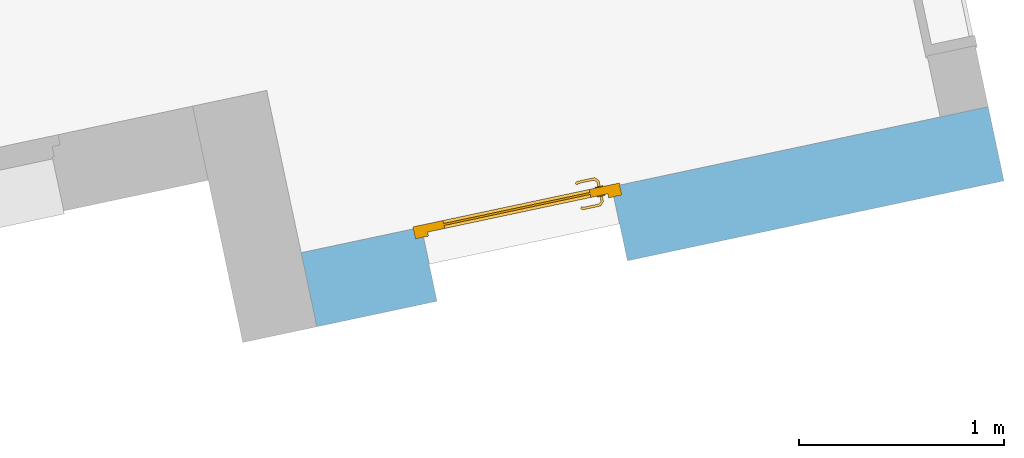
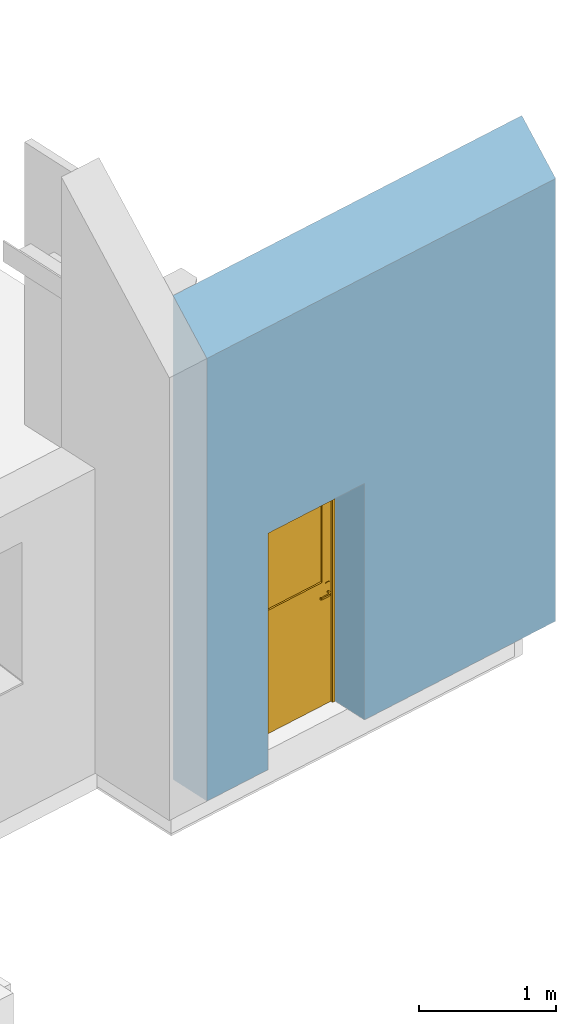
# One storey, part 9 of 11: 1 door, 1 opening, plus 1 element that does not belong to this part.
"""IFC2X3 building model written with IfcOpenShell, lengths in centimetres."""

import ifcopenshell
import ifcopenshell.guid

model = None  # the IFC model being written
_history = None  # IfcOwnerHistory: only IFC2X3 demands one
_inside = {}  # id of a spatial element -> (the spatial element, [elements in it])
_under = {}  # id of a project, library or spatial element -> (it, [spatial elements below it])
_declared = {}  # id of a project -> (the project, [libraries it declares])
_typed = {}  # id of a type object -> (the type object, [elements of that type])
_made_of = {}  # id of a material, layer set ... -> (it, [elements and type objects made of it])


def new_model(schema):
    """Start an empty IFC model of exactly this schema.

    Asked for "IFC4X3", IfcOpenShell would pick the latest addendum, in which some entities
    have other attributes; the version numbers below select the first issue.
    IFC2X3 requires an IfcOwnerHistory on every rooted entity: one is made here for all.
    """
    global model, _history
    if schema == "IFC4X3":
        model = ifcopenshell.file(schema_version=(4, 3, 0, 0))
    else:
        model = ifcopenshell.file(schema=schema)
    _inside.clear()
    _under.clear()
    _declared.clear()
    _typed.clear()
    _made_of.clear()
    _history = None
    if model.schema == "IFC2X3":
        org = make("IfcOrganization", Name="unknown")
        user = make(
            "IfcPersonAndOrganization",
            ThePerson=make("IfcPerson", FamilyName="unknown"),
            TheOrganization=org,
        )
        app = make(
            "IfcApplication",
            ApplicationDeveloper=org,
            Version="unknown",
            ApplicationFullName="unknown",
            ApplicationIdentifier="unknown",
        )
        _history = make(
            "IfcOwnerHistory",
            OwningUser=user,
            OwningApplication=app,
            ChangeAction="ADDED",
            CreationDate=0,
        )
    return model


def make(cls, **values):
    """One entity of the class cls with the attributes given. An attribute that is None is left unset."""
    return model.create_entity(
        cls, **{name: value for name, value in values.items() if value is not None}
    )


def entity(cls, *values):
    """Any entity or typed value of the class cls, its attributes in the order of the schema. None: left unset."""
    e = model.create_entity(cls)
    for i, value in enumerate(values):
        if value is not None:
            e[i] = value
    return e


def rooted(cls, **values):
    """An entity with a GlobalId (a new one), such as an element, a storey or a relation."""
    return make(cls, GlobalId=ifcopenshell.guid.new(), OwnerHistory=_history, **values)


def si_unit(unit_type, name, prefix=None):
    """IfcSIUnit, for example si_unit("LENGTHUNIT", "METRE", prefix="MILLI")."""
    return make("IfcSIUnit", UnitType=unit_type, Prefix=prefix, Name=name)


def converted_unit(unit_type, name, factor, base, dimensions=None, offset=None):
    """IfcConversionBasedUnit, such as the inch: factor (a typed value) times the base unit."""
    return make(
        "IfcConversionBasedUnit"
        if offset is None
        else "IfcConversionBasedUnitWithOffset",
        ConversionOffset=offset,
        Dimensions=None
        if dimensions is None
        else entity("IfcDimensionalExponents", *dimensions),
        UnitType=unit_type,
        Name=name,
        ConversionFactor=make(
            "IfcMeasureWithUnit", ValueComponent=factor, UnitComponent=base
        ),
    )


def derived_unit(unit_type, elements):
    """IfcDerivedUnit: a product of units, each with its exponent."""
    return make(
        "IfcDerivedUnit",
        Elements=[
            make("IfcDerivedUnitElement", Unit=unit, Exponent=power)
            for unit, power in elements
        ],
        UnitType=unit_type,
    )


def assignment(units):
    """IfcUnitAssignment: the units of a project."""
    return None if units is None else make("IfcUnitAssignment", Units=units)


def point(xyz):
    """IfcCartesianPoint."""
    return None if xyz is None else make("IfcCartesianPoint", Coordinates=xyz)


def direction(xyz):
    """IfcDirection."""
    return None if xyz is None else make("IfcDirection", DirectionRatios=xyz)


def frame(location, z_axis=None, x_axis=None):
    """IfcAxis2Placement3D, a coordinate frame: its origin and axes. An axis left out is left unset."""
    return make(
        "IfcAxis2Placement3D",
        Location=point(location),
        Axis=direction(z_axis),
        RefDirection=direction(x_axis),
    )


def frame_2d(location, x_axis=None):
    """IfcAxis2Placement2D, a coordinate frame in the plane: its origin and x axis."""
    return make(
        "IfcAxis2Placement2D", Location=point(location), RefDirection=direction(x_axis)
    )


def origin():
    """The frame at (0, 0, 0) with its axes left unset."""
    return frame((0.0, 0.0, 0.0))


def place(relative_to, where):
    """IfcLocalPlacement: puts the frame where relative to a parent placement (None: the world)."""
    return make(
        "IfcLocalPlacement", PlacementRelTo=relative_to, RelativePlacement=where
    )


def context(
    kind, dimensions, precision=None, world=None, true_north=None, identifier=None
):
    """IfcGeometricRepresentationContext, for example the 3D "Model" context."""
    return make(
        "IfcGeometricRepresentationContext",
        ContextIdentifier=identifier,
        ContextType=kind,
        CoordinateSpaceDimension=dimensions,
        Precision=precision,
        WorldCoordinateSystem=world,
        TrueNorth=true_north,
    )


def subcontext(parent, identifier, kind, view, scale=None):
    """IfcGeometricRepresentationSubContext, for example "Body" below "Model"."""
    return make(
        "IfcGeometricRepresentationSubContext",
        ContextIdentifier=identifier,
        ContextType=kind,
        ParentContext=parent,
        TargetScale=scale,
        TargetView=view,
    )


def project(units=None, contexts=None):
    """IfcProject with its units and contexts."""
    return rooted(
        "IfcProject",
        Name="project",
        RepresentationContexts=contexts,
        UnitsInContext=assignment(units),
    )


def spatial(cls, under=None, at=None, **own):
    """A site, building, storey or space (cls), placed at a placement, below another one or the project."""
    s = rooted(cls, ObjectPlacement=at, **own)
    if under is not None:
        _under.setdefault(under.id(), (under, []))[1].append(s)
    return s


def polyline(points):
    """IfcPolyline through the points."""
    return make("IfcPolyline", Points=[point(p) for p in points])


def profile(cls, at=None, kind="AREA", **sizes):
    """A parametric profile (cls). Its sizes go by their IFC names, for example OverallWidth=200.0."""
    return make(cls, ProfileType=kind, Position=at, **sizes)


def rectangle(**sizes):
    """IfcRectangleProfileDef."""
    return profile("IfcRectangleProfileDef", **sizes)


def extrude(swept, where, along, depth):
    """IfcExtrudedAreaSolid: the profile swept, set in the frame where, extruded along a direction by depth."""
    return make(
        "IfcExtrudedAreaSolid",
        SweptArea=swept,
        Position=where,
        ExtrudedDirection=direction(along),
        Depth=depth,
    )


def clip(a, b, op="DIFFERENCE"):
    """IfcBooleanClippingResult: the solid a cut by the half space b."""
    return make(
        "IfcBooleanClippingResult", Operator=op, FirstOperand=a, SecondOperand=b
    )


def bounded_halfspace(plane, agree, where, boundary):
    """IfcPolygonalBoundedHalfSpace: a half space limited to a polygon's prism."""
    return make(
        "IfcPolygonalBoundedHalfSpace",
        BaseSurface=make("IfcPlane", Position=plane),
        AgreementFlag=agree,
        Position=where,
        PolygonalBoundary=boundary,
    )


def faces_of(points, faces, orient=None, outer=None):
    """IfcFace entities. A face is a list of loops; a loop is a list of indices into points, from 0.

    orient and outer hold one flag for each loop. By default every Orientation is true, the
    first loop of a face is its IfcFaceOuterBound and the others are IfcFaceBound.
    """
    made = []
    for i, loops in enumerate(faces):
        bounds = []
        for j, loop in enumerate(loops):
            is_outer = j == 0 if outer is None else outer[i][j]
            bounds.append(
                make(
                    "IfcFaceOuterBound" if is_outer else "IfcFaceBound",
                    Bound=make("IfcPolyLoop", Polygon=[points[k] for k in loop]),
                    Orientation=True if orient is None else orient[i][j],
                )
            )
        made.append(make("IfcFace", Bounds=bounds))
    return made


def faceted_brep(points, faces, orient=None, outer=None, voids=None):
    """IfcFacetedBrep: a solid bounded by flat faces; with voids (closed shells), ...WithVoids."""
    shared = [point(p) for p in points]
    hull = make("IfcClosedShell", CfsFaces=faces_of(shared, faces, orient, outer))
    if voids is None:
        return make("IfcFacetedBrep", Outer=hull)
    return make(
        "IfcFacetedBrepWithVoids",
        Outer=hull,
        Voids=[
            make(cls, CfsFaces=faces_of(shared, fs, o, b)) for cls, fs, o, b in voids
        ],
    )


def shape(context_of_items, identifier, shape_type, items):
    """IfcShapeRepresentation: the items that make up one representation, for example the "Body"."""
    return make(
        "IfcShapeRepresentation",
        ContextOfItems=context_of_items,
        RepresentationIdentifier=identifier,
        RepresentationType=shape_type,
        Items=items,
    )


def source(mapping_origin, context_of_items, identifier, shape_type, items):
    """IfcRepresentationMap: a shape defined once, which mapped items show again and again."""
    return make(
        "IfcRepresentationMap",
        MappingOrigin=mapping_origin,
        MappedRepresentation=shape(context_of_items, identifier, shape_type, items),
    )


def transform(
    local_origin,
    x_axis=None,
    y_axis=None,
    z_axis=None,
    scale=None,
    scale2=None,
    scale3=None,
    uniform=True,
):
    """IfcCartesianTransformationOperator3D, or its non-uniform kind. x_axis, y_axis, z_axis: its Axis1, 2, 3."""
    if uniform:
        return make(
            "IfcCartesianTransformationOperator3D",
            Axis1=direction(x_axis),
            Axis2=direction(y_axis),
            LocalOrigin=point(local_origin),
            Scale=scale,
            Axis3=direction(z_axis),
        )
    return make(
        "IfcCartesianTransformationOperator3DnonUniform",
        Axis1=direction(x_axis),
        Axis2=direction(y_axis),
        LocalOrigin=point(local_origin),
        Scale=scale,
        Axis3=direction(z_axis),
        Scale2=scale2,
        Scale3=scale3,
    )


def mapped(mapping_source, mapping_target):
    """IfcMappedItem: shows the shape of a source again, moved by a transform."""
    return make(
        "IfcMappedItem", MappingSource=mapping_source, MappingTarget=mapping_target
    )


def material(Name=None, Category=None):
    """IfcMaterial."""
    return make("IfcMaterial", Name=Name, Category=Category)


def material_list(materials):
    """IfcMaterialList."""
    return make("IfcMaterialList", Materials=materials)


def layer(
    of_material, thickness, ventilated=None, Name=None, Category=None, Priority=None
):
    """IfcMaterialLayer: one layer of a wall or slab, of a material (None: an air gap)."""
    return make(
        "IfcMaterialLayer",
        Material=of_material,
        LayerThickness=thickness,
        IsVentilated=ventilated,
        Name=Name,
        Category=Category,
        Priority=Priority,
    )


def layer_set(layers, Name=None):
    """IfcMaterialLayerSet."""
    return make("IfcMaterialLayerSet", MaterialLayers=layers, LayerSetName=Name)


def layer_usage(for_layer_set, set_direction, sense, offset, extent=None):
    """IfcMaterialLayerSetUsage: how a layer set lies in its element."""
    return make(
        "IfcMaterialLayerSetUsage",
        ForLayerSet=for_layer_set,
        LayerSetDirection=set_direction,
        DirectionSense=sense,
        OffsetFromReferenceLine=offset,
        ReferenceExtent=extent,
    )


def made_of(thing, what):
    """Note that an element or type object is made of a material, layer set ...; save() writes the relation."""
    if what is not None:
        _made_of.setdefault(what.id(), (what, []))[1].append(thing)
    return thing


def type_object(cls, material=None, **own):
    """A type object (cls), such as IfcWallType, which elements share."""
    return made_of(rooted(cls, **own), material)


def type_shapes(of_type, sources):
    """Give a type object the sources (RepresentationMaps) that its elements show as mapped items."""
    of_type.RepresentationMaps = sources


def element(
    cls,
    number,
    at=None,
    inside=None,
    cuts=None,
    type_object=None,
    material=None,
    context=None,
    identifier="Body",
    shape_type=None,
    held_by="IfcProductDefinitionShape",
    body=None,
    shapes=None,
    **own,
):
    """One element of the class cls, such as IfcWall. Its Tag is "e" and its number.

    at: its placement. inside: the storey or other place that contains it. cuts: it is an
    opening in that element (IfcRelVoidsElement). A single representation is given by context,
    identifier, shape_type and body (its items); several are given by shapes. held_by: the class
    of the entity that holds the representations. save() writes the other relations.
    """
    e = rooted(cls, Tag="e%d" % number, ObjectPlacement=at, **own)
    if body is not None:
        shapes = [shape(context, identifier, shape_type, body)]
    if shapes is not None:
        e.Representation = make(held_by, Representations=shapes)
    if inside is not None:
        _inside.setdefault(inside.id(), (inside, []))[1].append(e)
    if cuts is not None:
        rooted(
            "IfcRelVoidsElement", RelatingBuildingElement=cuts, RelatedOpeningElement=e
        )
    if type_object is not None:
        _typed.setdefault(type_object.id(), (type_object, []))[1].append(e)
    return made_of(e, material)


def fill(opening, filler):
    """IfcRelFillsElement: the door or window that sits in an opening."""
    return rooted(
        "IfcRelFillsElement",
        RelatingOpeningElement=opening,
        RelatedBuildingElement=filler,
    )


def aggregate(whole, parts):
    """IfcRelAggregates: a whole, such as a stair, and the parts it consists of."""
    return rooted("IfcRelAggregates", RelatingObject=whole, RelatedObjects=parts)


def save(model, path):
    """Write the relations noted so far, then the file.

    IfcRelAggregates (storeys below a building ...), IfcRelContainedInSpatialStructure (elements
    in a storey), IfcRelDefinesByType, IfcRelAssociatesMaterial and IfcRelDeclares: one each for
    every whole, place, type object, material and project.
    """
    for whole, parts in _under.values():
        aggregate(whole, parts)
    for where, things in _inside.values():
        rooted(
            "IfcRelContainedInSpatialStructure",
            RelatedElements=things,
            RelatingStructure=where,
        )
    for kind, things in _typed.values():
        rooted("IfcRelDefinesByType", RelatedObjects=things, RelatingType=kind)
    for what, things in _made_of.values():
        rooted("IfcRelAssociatesMaterial", RelatedObjects=things, RelatingMaterial=what)
    for by, libraries in _declared.values():
        rooted("IfcRelDeclares", RelatingContext=by, RelatedDefinitions=libraries)
    model.write(path)


model = new_model("IFC2X3")

# Units and contexts
model_context = context("Model", 3, precision=0.001, world=origin(), true_north=direction((6.12303176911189e-17, 1.0)))
body_context = subcontext(model_context, "Body", "Model", "MODEL_VIEW")
ifc_project = project(units=[si_unit("LENGTHUNIT", "METRE", prefix="CENTI"), si_unit("AREAUNIT", "SQUARE_METRE"), si_unit("VOLUMEUNIT", "CUBIC_METRE"), converted_unit("PLANEANGLEUNIT", "DEGREE", entity("IfcRatioMeasure", 0.0174532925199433), si_unit("PLANEANGLEUNIT", "RADIAN"), dimensions=[0, 0, 0, 0, 0, 0, 0]), si_unit("MASSUNIT", "GRAM", prefix="KILO"), derived_unit("MASSDENSITYUNIT", [(si_unit("MASSUNIT", "GRAM", prefix="KILO"), 1), (si_unit("LENGTHUNIT", "METRE"), -3)]), derived_unit("IONCONCENTRATIONUNIT", [(si_unit("MASSUNIT", "GRAM", prefix="KILO"), 1), (si_unit("LENGTHUNIT", "METRE"), -3)]), derived_unit("MOMENTOFINERTIAUNIT", [(si_unit("LENGTHUNIT", "METRE"), 4)]), si_unit("TIMEUNIT", "SECOND"), si_unit("FREQUENCYUNIT", "HERTZ"), si_unit("THERMODYNAMICTEMPERATUREUNIT", "DEGREE_CELSIUS"), derived_unit("THERMALTRANSMITTANCEUNIT", [(si_unit("MASSUNIT", "GRAM", prefix="KILO"), 1), (si_unit("THERMODYNAMICTEMPERATUREUNIT", "KELVIN"), -1), (si_unit("TIMEUNIT", "SECOND"), -3)]), derived_unit("THERMALCONDUCTANCEUNIT", [(si_unit("MASSUNIT", "GRAM", prefix="KILO"), 1), (si_unit("THERMODYNAMICTEMPERATUREUNIT", "KELVIN"), -1), (si_unit("TIMEUNIT", "SECOND"), -3), (si_unit("LENGTHUNIT", "METRE"), 1)]), derived_unit("VOLUMETRICFLOWRATEUNIT", [(si_unit("LENGTHUNIT", "METRE"), 3), (si_unit("TIMEUNIT", "SECOND"), -1)]), derived_unit("MASSFLOWRATEUNIT", [(si_unit("MASSUNIT", "GRAM", prefix="KILO"), 1), (si_unit("TIMEUNIT", "SECOND"), -1)]), derived_unit("ROTATIONALFREQUENCYUNIT", [(si_unit("TIMEUNIT", "SECOND"), -1)]), si_unit("ELECTRICCURRENTUNIT", "AMPERE"), si_unit("ELECTRICVOLTAGEUNIT", "VOLT"), si_unit("POWERUNIT", "WATT"), si_unit("FORCEUNIT", "NEWTON", prefix="KILO"), si_unit("ILLUMINANCEUNIT", "LUX"), si_unit("LUMINOUSFLUXUNIT", "LUMEN"), si_unit("LUMINOUSINTENSITYUNIT", "CANDELA"), derived_unit("USERDEFINED", [(si_unit("MASSUNIT", "GRAM", prefix="KILO"), -1), (si_unit("LENGTHUNIT", "METRE"), -2), (si_unit("TIMEUNIT", "SECOND"), 3), (si_unit("LUMINOUSFLUXUNIT", "LUMEN"), 1)]), derived_unit("USERDEFINED", [(si_unit("MASSUNIT", "GRAM", prefix="KILO"), 1), (si_unit("TIMEUNIT", "SECOND"), -3), (si_unit("LENGTHUNIT", "METRE"), 3), (si_unit("ELECTRICCURRENTUNIT", "AMPERE"), -2)]), derived_unit("SOUNDPOWERUNIT", [(si_unit("MASSUNIT", "GRAM", prefix="KILO"), 1), (si_unit("TIMEUNIT", "SECOND"), -3), (si_unit("LENGTHUNIT", "METRE"), 2)]), derived_unit("SOUNDPRESSUREUNIT", [(si_unit("MASSUNIT", "GRAM", prefix="KILO"), 1), (si_unit("LENGTHUNIT", "METRE"), -1), (si_unit("TIMEUNIT", "SECOND"), -2)]), derived_unit("LINEARVELOCITYUNIT", [(si_unit("LENGTHUNIT", "METRE"), 1), (si_unit("TIMEUNIT", "SECOND"), -1)]), si_unit("PRESSUREUNIT", "PASCAL"), derived_unit("USERDEFINED", [(si_unit("MASSUNIT", "GRAM", prefix="KILO"), 1), (si_unit("LENGTHUNIT", "METRE"), -2), (si_unit("TIMEUNIT", "SECOND"), -2)]), derived_unit("LINEARFORCEUNIT", [(si_unit("MASSUNIT", "GRAM", prefix="KILO"), 1), (si_unit("TIMEUNIT", "SECOND"), -2)]), derived_unit("PLANARFORCEUNIT", [(si_unit("MASSUNIT", "GRAM", prefix="KILO"), 1), (si_unit("LENGTHUNIT", "METRE"), -1), (si_unit("TIMEUNIT", "SECOND"), -2)]), derived_unit("SPECIFICHEATCAPACITYUNIT", [(si_unit("THERMODYNAMICTEMPERATUREUNIT", "KELVIN"), -1), (si_unit("LENGTHUNIT", "METRE"), 2), (si_unit("TIMEUNIT", "SECOND"), -2)]), derived_unit("HEATINGVALUEUNIT", [(si_unit("LENGTHUNIT", "METRE"), 2), (si_unit("TIMEUNIT", "SECOND"), -2)]), derived_unit("VAPORPERMEABILITYUNIT", [(si_unit("LENGTHUNIT", "METRE"), -1), (si_unit("TIMEUNIT", "SECOND"), 1)]), derived_unit("DYNAMICVISCOSITYUNIT", [(si_unit("MASSUNIT", "GRAM", prefix="KILO"), 1), (si_unit("TIMEUNIT", "SECOND"), -1), (si_unit("LENGTHUNIT", "METRE"), -1)]), derived_unit("THERMALEXPANSIONCOEFFICIENTUNIT", [(si_unit("THERMODYNAMICTEMPERATUREUNIT", "KELVIN"), -1)]), derived_unit("MODULUSOFELASTICITYUNIT", [(si_unit("MASSUNIT", "GRAM", prefix="KILO"), 1), (si_unit("LENGTHUNIT", "METRE"), -1), (si_unit("TIMEUNIT", "SECOND"), -2)]), derived_unit("ISOTHERMALMOISTURECAPACITYUNIT", [(si_unit("LENGTHUNIT", "METRE"), 3), (si_unit("MASSUNIT", "GRAM", prefix="KILO"), -1)]), derived_unit("MOISTUREDIFFUSIVITYUNIT", [(si_unit("TIMEUNIT", "SECOND"), -1), (si_unit("LENGTHUNIT", "METRE"), 2)])], contexts=[model_context])

# Site, building, storey
site_placement = place(None, frame((14083.8920177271, -6853.25409548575, 6900.0), z_axis=(0.0, 0.0, 1.0), x_axis=(0.978188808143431, 0.207717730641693, 0.0)))
site = spatial("IfcSite", under=ifc_project, at=site_placement, Name="Surface", CompositionType="ELEMENT")
building_placement = place(site_placement, origin())
building = spatial("IfcBuilding", under=site, at=building_placement, CompositionType="ELEMENT")
storey_placement = place(building_placement, frame((0.0, 0.0, 17.0)))
storey = spatial("IfcBuildingStorey", under=building, at=storey_placement, Name="Rez de chaussée", CompositionType="ELEMENT", Elevation=17.0000000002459)

# Wall, opening, door
ifc_material_1 = material(Name="__ PIERRE______________________TEST")
ifc_layer_1 = layer(ifc_material_1, 2.0)
ifc_material_2 = material(Name="__ BETON_parpaings")
ifc_layer_2 = layer(ifc_material_2, 20.0)
ifc_material_3 = material(Name="__ ISOLANT (pat 1)")
ifc_layer_3 = layer(ifc_material_3, 13.0)
ifc_material_4 = material(Name="__ ENDUIT_Blanc")
ifc_layer_4 = layer(ifc_material_4, 2.0)
ifc_layer_set = layer_set([ifc_layer_1, ifc_layer_2, ifc_layer_3, ifc_layer_4], Name="Mur de base:*BRIQUE 37 (20 +INT 13+2 + EXT 2) (Iso+BA13)(parement)")
ifc_layer_usage = layer_usage(ifc_layer_set, "AXIS2", "POSITIVE", -18.5)
wall_type = type_object("IfcWallType", Name="Mur de base:*BRIQUE 37 (20 +INT 13+2 + EXT 2) (Iso+BA13)(parement)", PredefinedType="STANDARD", material=ifc_layer_set)
wall_placement = place(storey_placement, frame((-7126.9551432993, 14783.1724778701, 0.0)))
wall = element("IfcWallStandardCase", 1, at=wall_placement, inside=storey, type_object=wall_type, material=ifc_layer_usage, Name="Mur de base:*BRIQUE 37 (20 +INT 13+2 + EXT 2) (Iso+BA13)(parement)", ObjectType="Mur de base:*BRIQUE 37 (20 +INT 13+2 + EXT 2) (Iso+BA13)(parement)", context=body_context, shape_type="Clipping", body=[
    clip(extrude(rectangle(XDim=342.999999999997, YDim=37.0000000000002, at=frame_2d((171.499999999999, -1.14397380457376e-12), x_axis=(1.0, 0.0))), origin(), (0.0, 0.0, 1.0), 431.999999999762), bounded_halfspace(frame((0.0, -18.500000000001, 395.0), z_axis=(0.0, -0.707106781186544, 0.707106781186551), x_axis=(1.0, 0.0, 0.0)), False, frame((0.0, -18.500000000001, 395.0)), polyline([(0.0, 0.0), (343.0, 0.0), (343.0, 37.0), (0.0, 37.0), (0.0, 0.0)]))),
])
opening_placement = place(wall_placement, frame((56.0, -48.5000000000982, 0.0)))
opening = element("IfcOpeningElement", 2, at=opening_placement, cuts=wall, Name="Mur de base:*BRIQUE 37 (20 +INT 13+2 + EXT 2) (Iso+BA13)(parement)", ObjectType="Opening", context=body_context, shape_type="Brep", body=[
    faceted_brep([(4.0, 97.0, 211.0), (4.0, 67.0, 211.0), (99.0, 67.0, 211.0), (99.0, 97.0, 211.0), (4.0, 0.0, 0.0), (4.0, 62.0, 0.0), (0.0, 62.0, 0.0), (0.0, 67.0, 0.0), (4.0, 67.0, 0.0), (4.0, 97.0, 0.0), (99.0, 97.0, 0.0), (99.0, 67.0, 0.0), (103.0, 67.0, 0.0), (103.0, 62.0, 0.0), (99.0, 62.0, 0.0), (99.0, 0.0, 0.0), (4.0, 0.0, 211.0), (99.0, 0.0, 211.0), (4.0, 62.0, 211.0), (0.0, 67.0, 215.0), (103.0, 67.0, 215.0), (103.0, 62.0, 215.0), (0.0, 62.0, 215.0), (99.0, 62.0, 211.0)], [[[0, 1, 2, 3]], [[4, 5, 6, 7, 8, 9, 10, 11, 12, 13, 14, 15]], [[16, 4, 15, 17]], [[3, 2, 11, 10]], [[3, 10, 9, 0]], [[16, 18, 5, 4]], [[11, 2, 1, 8, 7, 19, 20, 12]], [[12, 20, 21, 13]], [[13, 21, 22, 6, 5, 18, 23, 14]], [[19, 22, 21, 20]], [[7, 6, 22, 19]], [[9, 8, 1, 0]], [[15, 14, 23, 17]], [[17, 23, 18, 16]]]),
])
ifc_material_5 = material(Name="PVC - Blanc")
ifc_material_6 = material(Name="Verre")
ifc_material_list = material_list([ifc_material_5, ifc_material_6])
door_style = type_object("IfcDoorStyle", Name="PVC Panneau Vitré - Traverse:P oculus 93x210", ConstructionType="NOTDEFINED", OperationType="SINGLE_SWING_RIGHT", ParameterTakesPrecedence=False, Sizeable=False, material=ifc_material_list)
shared_shape = source(origin(), body_context, "Body", "Brep", [
    faceted_brep([(9.79747013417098, 33.5, 100.778044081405), (9.39999999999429, 33.5, 100.699999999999), (9.39999999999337, 33.5, 99.2999999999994), (9.79747013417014, 33.5, 99.2219559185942), (10.2025298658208, 33.5, 99.221955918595), (10.5999999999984, 33.5, 99.300000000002), (10.5999999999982, 33.5, 100.699999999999), (10.2025298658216, 33.5, 100.778044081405), (10.5999999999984, 35.7485204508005, 99.300000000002), (10.5999999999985, 35.7485204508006, 100.699999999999), (10.2025298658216, 35.9131579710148, 100.778044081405), (11.5838906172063, 37.2945187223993, 100.778044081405), (11.4161093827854, 37.6995784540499, 100.778044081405), (9.79747013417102, 36.0809392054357, 100.778044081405), (20.5684749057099, 36.6467315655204, 100.778044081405), (20.8548953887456, 36.9331520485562, 100.778044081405), (20.0884689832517, 37.6995784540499, 100.778044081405), (19.9206877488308, 37.2945187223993, 100.778044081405), (9.3999999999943, 36.2455767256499, 100.699999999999), (9.39999999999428, 36.2455767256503, 99.2999999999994), (9.79747013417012, 36.080939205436, 99.2219559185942), (11.416109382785, 37.6995784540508, 99.2219559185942), (11.5838906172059, 37.2945187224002, 99.221955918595), (10.2025298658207, 35.9131579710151, 99.221955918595), (20.8548953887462, 36.9331520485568, 99.2219559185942), (20.5684749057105, 36.646731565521, 99.221955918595), (19.9206877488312, 37.2945187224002, 99.221955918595), (20.088468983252, 37.6995784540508, 99.2219559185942), (11.7485281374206, 36.8970485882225, 99.300000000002), (11.7485281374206, 36.8970485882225, 100.699999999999), (11.2514718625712, 38.0970485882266, 100.699999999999), (11.2514718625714, 38.0970485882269, 99.2999999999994), (15.7522879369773, 36.8970485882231, 99.3000000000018), (19.7560502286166, 36.8970485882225, 99.300000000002), (19.7560502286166, 36.8970485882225, 100.699999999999), (15.7522891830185, 36.8970485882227, 100.699999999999), (15.7522891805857, 37.5124927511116, 100.787811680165), (20.2531065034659, 38.0970485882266, 100.699999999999), (16.260057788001, 38.0970485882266, 100.699999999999), (20.2531065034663, 38.0970485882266, 99.2999999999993), (15.2445206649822, 38.0970485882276, 99.2999999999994), (15.7522892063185, 37.5124927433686, 99.2121883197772), (20.2874210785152, 36.3656777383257, 99.3000000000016), (21.1359492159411, 37.2142058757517, 99.2999999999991), (21.135949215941, 37.2142058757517, 100.699999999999), (20.2874210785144, 36.3656777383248, 100.699999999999)], [[[0, 1, 2, 3, 4, 5, 6, 7]], [[6, 5, 8, 9]], [[9, 10, 7, 6]], [[10, 11, 12, 13, 0, 7]], [[14, 15, 16, 17]], [[13, 18, 1, 0]], [[2, 1, 18, 19]], [[19, 20, 3, 2]], [[20, 21, 22, 23, 4, 3]], [[24, 25, 26, 27]], [[23, 8, 5, 4]], [[9, 8, 28, 29]], [[29, 11, 10, 9]], [[12, 30, 18, 13]], [[19, 18, 30, 31]], [[31, 21, 20, 19]], [[22, 28, 8, 23]], [[29, 28, 32, 33, 34, 35]], [[11, 35, 36]], [[16, 37, 38]], [[30, 12, 38]], [[38, 12, 36]], [[36, 35, 17]], [[17, 16, 36]], [[35, 11, 29]], [[34, 17, 35]], [[11, 36, 12]], [[38, 36, 16]], [[31, 30, 38, 37, 39, 40]], [[40, 41, 21]], [[41, 40, 27]], [[21, 31, 40]], [[39, 27, 40]], [[41, 32, 22]], [[22, 21, 41]], [[26, 32, 41]], [[28, 22, 32]], [[32, 26, 33]], [[26, 41, 27]], [[42, 25, 24, 43, 44, 15, 14, 45]], [[34, 33, 42, 45]], [[45, 14, 17, 34]], [[15, 44, 37, 16]], [[39, 37, 44, 43]], [[43, 24, 27, 39]], [[25, 42, 33, 26]]]),
    faceted_brep([(9.79747013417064, 28.5, 100.778044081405), (10.2025298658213, 28.5, 100.778044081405), (10.5999999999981, 28.5, 100.699999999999), (10.5999999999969, 28.5, 99.3000000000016), (10.2025298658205, 28.5, 99.221955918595), (9.79747013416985, 28.5, 99.2219559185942), (9.39999999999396, 28.5, 99.2999999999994), (9.39999999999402, 28.5, 100.699999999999), (9.399999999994, 25.7349049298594, 100.699999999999), (9.79747013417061, 25.8995424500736, 100.778044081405), (11.4023585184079, 24.2946540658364, 100.778044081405), (11.5701397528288, 24.699713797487, 100.778044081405), (10.2025298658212, 26.0673236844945, 100.778044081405), (20.8521810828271, 25.0610804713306, 100.778044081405), (20.5657605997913, 25.3475009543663, 100.778044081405), (19.9179734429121, 24.699713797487, 100.778044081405), (20.085754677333, 24.2946540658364, 100.778044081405), (10.5999999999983, 26.2319612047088, 100.699999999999), (10.5999999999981, 26.2319612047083, 99.3000000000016), (10.2025298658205, 26.0673236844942, 99.221955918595), (11.5701397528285, 24.6997137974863, 99.221955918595), (11.4023585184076, 24.2946540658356, 99.2219559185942), (9.79747013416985, 25.8995424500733, 99.2219559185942), (20.5657605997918, 25.3475009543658, 99.221955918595), (20.8521810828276, 25.0610804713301, 99.2219559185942), (20.0857546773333, 24.2946540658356, 99.2219559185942), (19.9179734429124, 24.6997137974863, 99.221955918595), (9.39999999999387, 25.7349049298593, 99.2999999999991), (11.2377209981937, 23.8971839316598, 100.699999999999), (11.7347772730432, 25.097183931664, 100.699999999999), (11.7347772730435, 25.0971839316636, 99.3000000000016), (11.2377209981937, 23.8971839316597, 99.2999999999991), (15.2307697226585, 23.8971839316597, 100.699999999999), (15.7440566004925, 24.4817197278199, 100.787811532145), (20.2503921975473, 23.8971839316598, 100.699999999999), (15.7440565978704, 25.0971839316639, 100.699999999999), (19.7533359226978, 25.0971839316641, 100.699999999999), (19.7533359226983, 25.0971839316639, 99.3000000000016), (15.7440563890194, 25.0971839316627, 99.3000000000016), (15.7440565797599, 24.4817197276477, 99.2121884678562), (20.2503921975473, 23.8971839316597, 99.2999999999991), (16.2573429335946, 23.8971839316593, 99.2999999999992), (20.2847067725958, 25.6285547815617, 100.699999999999), (21.1332349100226, 24.7800266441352, 100.699999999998), (21.1332349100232, 24.7800266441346, 99.2999999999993), (20.2847067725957, 25.6285547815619, 99.3000000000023)], [[[0, 1, 2, 3, 4, 5, 6, 7]], [[8, 9, 0, 7]], [[9, 10, 11, 12, 1, 0]], [[13, 14, 15, 16]], [[12, 17, 2, 1]], [[3, 2, 17, 18]], [[18, 19, 4, 3]], [[19, 20, 21, 22, 5, 4]], [[23, 24, 25, 26]], [[22, 27, 6, 5]], [[7, 6, 27, 8]], [[28, 10, 9, 8]], [[11, 29, 17, 12]], [[18, 17, 29, 30]], [[30, 20, 19, 18]], [[21, 31, 27, 22]], [[8, 27, 31, 28]], [[32, 33, 10]], [[33, 32, 16]], [[10, 28, 32]], [[34, 16, 32]], [[33, 35, 11]], [[11, 10, 33]], [[15, 35, 33]], [[29, 11, 35]], [[35, 15, 36]], [[15, 33, 16]], [[30, 29, 35, 36, 37, 38]], [[20, 38, 39]], [[25, 40, 41]], [[31, 21, 41]], [[41, 21, 39]], [[39, 38, 26]], [[26, 25, 39]], [[38, 20, 30]], [[37, 26, 38]], [[20, 39, 21]], [[41, 39, 25]], [[28, 31, 41, 40, 34, 32]], [[42, 14, 13, 43, 44, 24, 23, 45]], [[43, 13, 16, 34]], [[14, 42, 36, 15]], [[37, 36, 42, 45]], [[45, 23, 26, 37]], [[24, 44, 40, 25]], [[34, 40, 44, 43]]]),
    faceted_brep([(11.0352761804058, 33.0, 86.6003983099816), (12.0, 33.0, 87.0), (12.0, 33.0, 108.0), (11.0352761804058, 33.0, 108.399601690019), (10.0, 33.0, 108.535898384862), (8.96472381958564, 33.0, 108.399601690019), (8.0, 33.0, 108.0), (8.0, 33.0, 87.0), (8.96472381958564, 33.0, 86.6003983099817), (10.0, 33.0, 86.4641016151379), (11.0352761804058, 33.5, 108.399601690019), (12.0, 33.5, 108.0), (12.0, 33.5, 87.0), (11.0352761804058, 33.5, 86.6003983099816), (10.0, 33.5, 86.4641016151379), (8.96472381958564, 33.5, 86.6003983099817), (8.0, 33.5, 87.0), (8.0, 33.5, 108.0), (8.96472381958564, 33.5, 108.399601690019), (10.0, 33.5, 108.535898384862)], [[[0, 1, 2, 3, 4, 5, 6, 7, 8, 9]], [[10, 11, 12, 13, 14, 15, 16, 17, 18, 19]], [[11, 10, 3, 2]], [[3, 10, 19, 4]], [[19, 18, 5, 4]], [[18, 17, 6, 5]], [[7, 6, 17, 16]], [[16, 15, 8, 7]], [[8, 15, 14, 9]], [[14, 13, 0, 9]], [[13, 12, 1, 0]], [[2, 1, 12, 11]]]),
    faceted_brep([(11.0352761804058, 28.5, 86.6003983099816), (12.0, 28.5, 87.0), (12.0, 28.5, 108.0), (11.0352761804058, 28.5, 108.399601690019), (10.0, 28.5, 108.535898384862), (8.96472381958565, 28.5, 108.399601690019), (8.0, 28.5, 108.0), (8.0, 28.5, 87.0), (8.96472381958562, 28.5, 86.6003983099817), (10.0, 28.5, 86.4641016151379), (11.0352761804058, 29.0, 108.399601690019), (12.0, 29.0, 108.0), (12.0, 29.0, 87.0), (11.0352761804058, 29.0, 86.6003983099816), (10.0, 29.0, 86.4641016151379), (8.96472381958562, 29.0, 86.6003983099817), (8.0, 29.0, 87.0), (8.0, 29.0, 108.0), (8.96472381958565, 29.0, 108.399601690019), (10.0, 29.0, 108.535898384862)], [[[0, 1, 2, 3, 4, 5, 6, 7, 8, 9]], [[10, 11, 12, 13, 14, 15, 16, 17, 18, 19]], [[16, 15, 8, 7]], [[8, 15, 14, 9]], [[14, 13, 0, 9]], [[13, 12, 1, 0]], [[2, 1, 12, 11]], [[11, 10, 3, 2]], [[3, 10, 19, 4]], [[19, 18, 5, 4]], [[18, 17, 6, 5]], [[7, 6, 17, 16]]]),
    faceted_brep([(0.0, 29.0, 0.0), (0.0, 35.0, 0.0), (6.49999999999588, 35.0, 0.0), (6.49999999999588, 33.0, 0.0), (5.0, 33.0, 0.0), (5.0, 29.0, 0.0), (0.0, 29.0, 215.0), (0.0, 35.0, 215.0), (103.0, 35.0, 215.0), (103.0, 35.0, 0.0), (96.4999999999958, 35.0, 0.0), (96.4999999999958, 35.0, 208.500000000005), (6.49999999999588, 35.0, 208.500000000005), (6.49999999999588, 33.0, 208.500000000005), (96.4999999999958, 33.0, 208.500000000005), (96.4999999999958, 33.0, 0.0), (98.0, 33.0, 0.0), (98.0, 33.0, 210.0), (5.0, 33.0, 210.0), (5.0, 29.0, 210.0), (98.0, 29.0, 210.0), (98.0, 29.0, 0.0), (103.0, 29.0, 0.0), (103.0, 29.0, 215.0)], [[[0, 1, 2, 3, 4, 5]], [[1, 0, 6, 7]], [[2, 1, 7, 8, 9, 10, 11, 12]], [[3, 2, 12, 13]], [[4, 3, 13, 14, 15, 16, 17, 18]], [[5, 4, 18, 19]], [[0, 5, 19, 20, 21, 22, 23, 6]], [[8, 23, 22, 9]], [[22, 21, 16, 15, 10, 9]], [[14, 11, 10, 15]], [[20, 17, 16, 21]], [[7, 6, 23, 8]], [[13, 12, 11, 14]], [[19, 18, 17, 20]]]),
    faceted_brep([(15.0, 30.5000000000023, 201.0), (15.0, 30.5000000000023, 110.0), (88.0, 30.5000000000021, 110.0), (88.0, 30.5000000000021, 201.0), (15.0, 31.5000000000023, 201.0), (88.0, 31.5000000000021, 201.0), (88.0, 31.5000000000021, 110.0), (15.0, 31.5000000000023, 110.0)], [[[0, 1, 2, 3]], [[4, 5, 6, 7]], [[1, 0, 4, 7]], [[2, 1, 7, 6]], [[3, 2, 6, 5]], [[0, 3, 5, 4]]]),
    faceted_brep([(5.0, 29.0, 210.0), (5.0, 29.0, 0.0), (98.0, 29.0, 0.0), (98.0, 29.0, 210.0), (88.0, 29.0, 201.0), (88.0, 29.0, 110.0), (15.0, 29.0, 110.0), (15.0, 29.0, 201.0), (5.0, 33.0, 210.0), (98.0, 33.0, 210.0), (98.0, 33.0, 0.0), (5.0, 33.0, 0.0), (88.0, 33.0, 201.0), (15.0, 33.0, 201.0), (15.0, 33.0, 110.0), (88.0, 33.0, 110.0)], [[[0, 1, 2, 3], [4, 5, 6, 7]], [[8, 9, 10, 11], [12, 13, 14, 15]], [[1, 0, 8, 11]], [[2, 1, 11, 10]], [[3, 2, 10, 9]], [[0, 3, 9, 8]], [[5, 4, 12, 15]], [[6, 5, 15, 14]], [[7, 6, 14, 13]], [[4, 7, 13, 12]]]),
])
type_shapes(door_style, [shared_shape])
door_placement = place(opening_placement, frame((103.0, 97.0, 0.0), z_axis=(0.0, 0.0, 1.0), x_axis=(-1.0, 0.0, 0.0)))
door = element("IfcDoor", 3, at=door_placement, inside=storey, type_object=door_style, material=ifc_material_list, Name="PVC Panneau Vitré - Traverse:P oculus 93x210", ObjectType="PVC Panneau Vitré - Traverse:P oculus 93x210", OverallHeight=215.000000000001, OverallWidth=102.999999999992, context=body_context, shape_type="MappedRepresentation", body=[
    mapped(shared_shape, transform((0.0, 0.0, 0.0), scale=1.0)),
])
fill(opening, door)

save(model, "model.ifc")
